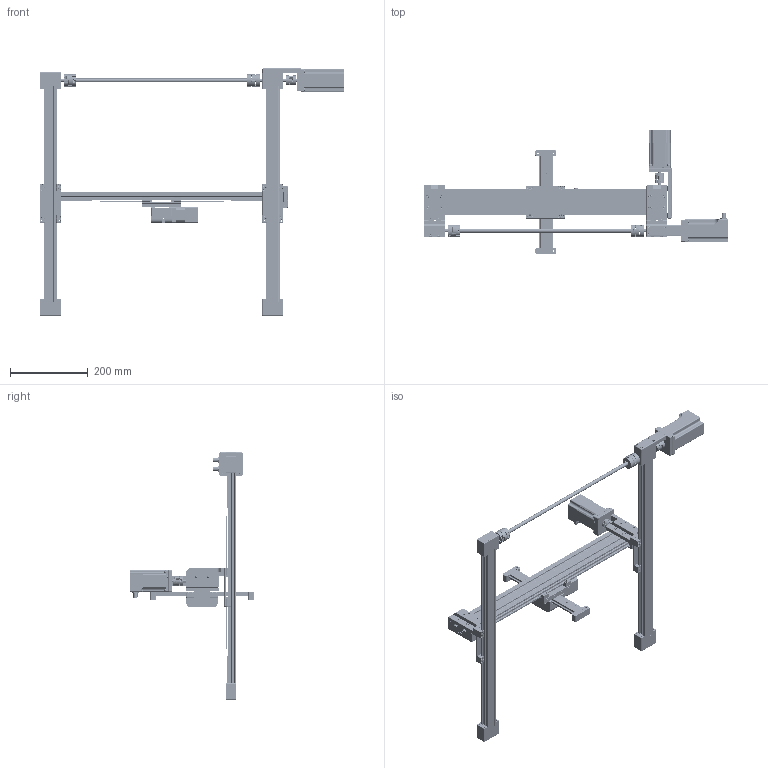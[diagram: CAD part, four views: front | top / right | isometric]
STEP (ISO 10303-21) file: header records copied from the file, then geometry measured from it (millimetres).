
FILE_DESCRIPTION(/* description */ (''),/* implementation_level */ '2;1');
FILE_NAME(/* name */ 'I:\Gleitlager\Konstruktion\SERIE NEU (im Aufbau!!)\drylin E\Portale\DLE-RG-XXXX\DLE-RG-0002\DLE-RG-0002.stp',/* time_stamp */ '2017-11-06T11:55:53+01:00',/* author */ ('fkoeching'),/* organization */ (''),/* preprocessor_version */ 'ST-DEVELOPER v16.1',/* originating_system */ 'Autodesk Inventor 2016',/* authorisation */ '');
FILE_SCHEMA (('AUTOMOTIVE_DESIGN { 1 0 10303 214 3 1 1 }'));
Products named in the file (96): ZSX-063001-konfig; ZTZ-063001; ZTZ-063002; NOR-20110; NOR-20902; ZTY-063013; ZTY-063002; NOR-10606; NOR-10404; ZTL-06300S-V; ZTL-063002; ZSY-063005; WM-01-06; JQM-01-06k; WJ200QM-01-06; ZS-063003; ZSY-063002; ZR-063002-XX-konfig; ZR-063002; ZTZ-063005; ZTZ-063002_1; ZTY-063013_1; Welle-beidseitig; riemenrad; ZTY-063007; ZTF-06300S-R-L-V; ZTF-063006; ZLW-0630-S-konfig; ZTZ-063004; welleantriebneu; riemenrad_1; ZTY-063003; ZTF-06300S-V; ZTF-063002; ZLW-0630-S-konfig-X2; ETY-063004; NOR-10526; NOR-10581; AK-0042; ZSX-066001-konfig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
Assembly tree (246 placements, depth 6):
  DLE-RG-0002
    ZLW-0630-S-konfig
      ZSX-063001-konfig
      ZTL-063002
        ZTZ-063001
        ZTZ-063002
        NOR-20110  x2
        ZTL-06300S-V
          NOR-20902  x2
          ZTY-063013  x2
          ZTY-063002
          NOR-10606  x4
          NOR-10404  x4
      ZS-063003
        ZSY-063005
        WJ200QM-01-06  x4
          WM-01-06
          JQM-01-06k
        NOR-10606  x4
      ZR-063002
        ZSY-063002  x2
        ZR-063002-XX-konfig
        NOR-10606  x4
      ZTF-063006
        ZTZ-063005
        ZTZ-063002_1
        NOR-20110  x2
        ZTF-06300S-R-L-V
          NOR-20902  x2
          ZTY-063013_1  x2
          ZTY-063007
            Welle-beidseitig
            riemenrad
    ZLW-0630-S-konfig-X2
      ZSX-063001-konfig
      ZTL-063002
        ZTZ-063001
        ZTZ-063002
        NOR-20110  x2
        ZTL-06300S-V
          NOR-20902  x2
          ZTY-063013  x2
          ZTY-063002
          NOR-10606  x4
          NOR-10404  x4
      ZS-063003
        ZSY-063005
        WJ200QM-01-06  x4
          WM-01-06
          JQM-01-06k
        NOR-10606  x4
      ZR-063002
        ZSY-063002  x2
        ZR-063002-XX-konfig
        NOR-10606  x4
      ZTF-063002
        ZTZ-063004
        ZTZ-063002
        NOR-20110  x2
        ZTF-06300S-V
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Bounding box: 781.9 x 318.15 x 636.5 mm (x, y, z)
Volume: 2373664.2 mm3; surface area: 1249938.2 mm2
Topology: 266 solids, 274 shells, 11577 faces, 29784 edges, 19017 vertices
Faces by surface type: plane 5875, cylinder 3474, cone 733, torus 624, bspline 525, sphere 346
Full cylindrical faces by diameter (mm): 1 x26, 1.3 x2, 1.8 x18, 1.948 x2, 2 x22, 2.013 x13, 2.1 x2, 2.459 x17, 2.5 x8, 2.75 x4, 2.9 x6, 3 x75, 3.2 x5, 3.242 x80, 3.4 x8, 3.459 x32, 3.5 x10, 4 x116, 4.134 x8, 4.2 x44, 4.3 x8, 4.5 x48, 4.9 x4, 4.917 x10, 5 x26, 5.5 x28, 6 x32, 6.35 x1, 6.5 x4, 7 x109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
Entity records: 182447 total; most frequent: CARTESIAN_POINT 40735, ORIENTED_EDGE 28268, DIRECTION 27840, EDGE_CURVE 14134, VERTEX_POINT 9624, AXIS2_PLACEMENT_3D 9514, LINE 8812, VECTOR 8812
